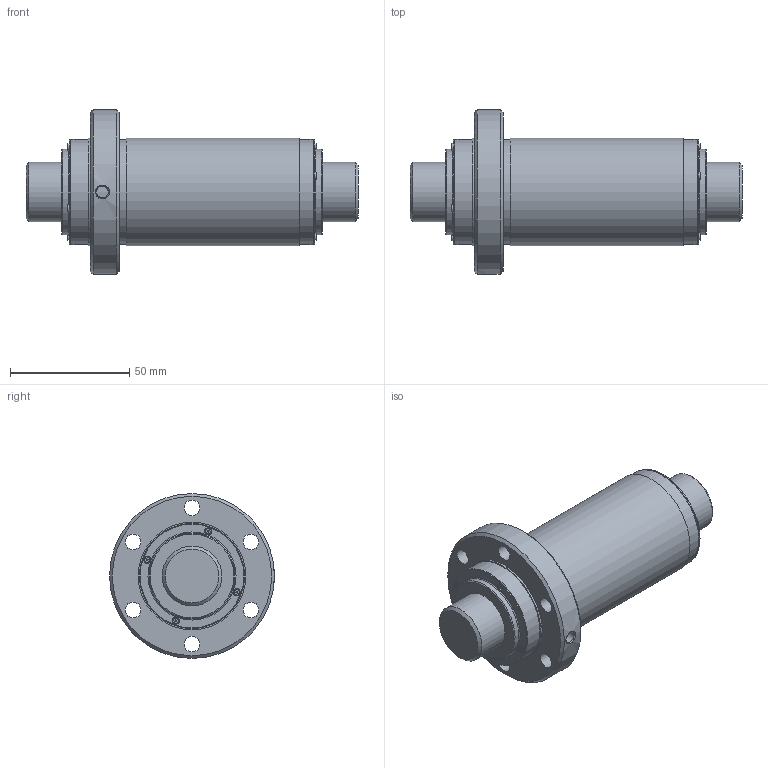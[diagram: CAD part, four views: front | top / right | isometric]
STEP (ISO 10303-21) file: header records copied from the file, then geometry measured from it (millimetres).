
FILE_DESCRIPTION(/* description */ ('STEP AP203'),/* implementation_level */ '2;1');
FILE_NAME(/* name */ 'CNF2550-6ZZ+139LC7T_000_rev',/* time_stamp */ '2025-06-11T06:44:28+02:00',/* author */ ('License CC BY-ND 4.0'),/* organization */ ('CADENAS'),/* preprocessor_version */ 'ST-DEVELOPER v19.3',/* originating_system */ 'PARTsolutions',/* authorisation */ ' ');
FILE_SCHEMA (('CONFIG_CONTROL_DESIGN'));
Length unit declared in the file: millimetre
Products named in the file (3): CNF2550-6ZZ+139LC7T_000_rev; CNF2550-60ZZ0 Shaft; CNF2550-6ZZ Nut
Assembly tree (2 placements, depth 2):
  CNF2550-6ZZ+139LC7T_000_rev
    CNF2550-60ZZ0 Shaft
    CNF2550-6ZZ Nut
Bounding box: 139 x 69 x 69 mm (x, y, z)
Volume: 205871.6 mm3; surface area: 44249.9 mm2
Topology: 2 solids, 2 shells, 203 faces, 504 edges, 330 vertices
Faces by surface type: plane 125, cylinder 59, torus 12, cone 7
Full cylindrical faces by diameter (mm): 3 x8, 4.917 x1, 6.6 x6, 25 x2, 36 x2, 44 x5, 45 x2, 69 x1
Entity records: 5893 total; most frequent: CARTESIAN_POINT 1012, DIRECTION 1002, ORIENTED_EDGE 914, EDGE_CURVE 457, AXIS2_PLACEMENT_3D 341, VERTEX_POINT 329, LINE 320, VECTOR 320
